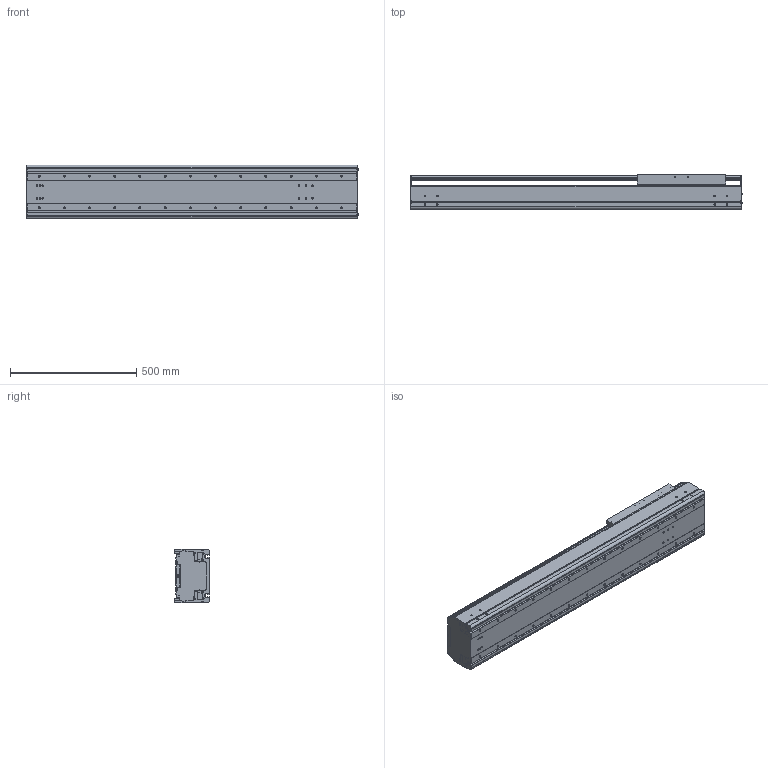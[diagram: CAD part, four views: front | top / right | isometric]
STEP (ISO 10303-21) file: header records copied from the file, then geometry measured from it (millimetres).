
FILE_DESCRIPTION((''),'2;1');
FILE_NAME('BE60G-ST-L_N-85_IGS_PRT','2017-06-18T',(' '),(''),'PRO/ENGINEER BY PARAMETRIC TECHNOLOGY CORPORATION, 2015030','PRO/ENGINEER BY PARAMETRIC TECHNOLOGY CORPORATION, 2015030','');
FILE_SCHEMA(('CONFIG_CONTROL_DESIGN'));
Length unit declared in the file: millimetre
Products named in the file (1): BE60G-ST-L_N-85_IGS_PRT
Bounding box: 1317.4 x 140 x 214 mm (x, y, z)
Volume: 11071921.4 mm3; surface area: 2898216.6 mm2
Topology: 2 solids, 140 shells, 1562 faces, 4344 edges, 2848 vertices
Faces by surface type: cylinder 792, plane 610, cone 112, sphere 24, torus 24
Entity records: 51930 total; most frequent: CARTESIAN_POINT 11680, DIRECTION 8478, ORIENTED_EDGE 7928, EDGE_CURVE 4236, AXIS2_PLACEMENT_3D 3155, VERTEX_POINT 2848, VECTOR 2168, LINE 2168
